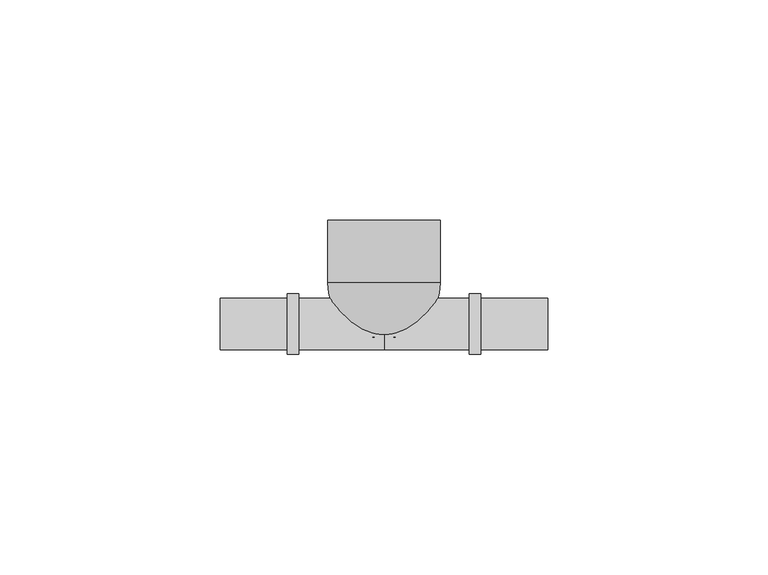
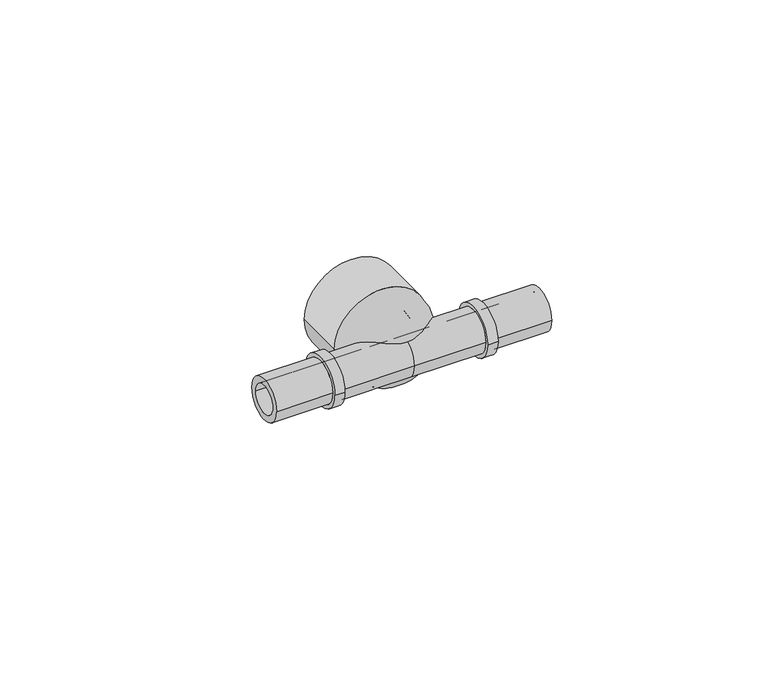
"""IFC4 building model written with IfcOpenShell, lengths in millimetres: pipe fitting geometry, FASTLOC_T-piece internal thread LX : FSL T thread LX PL."""

from ifc_helpers import new_model, si_unit, point, frame, origin, place, context, project, spatial, polyline, circle_curve, ellipse_curve, trimmed, source, transform, mapped, element, save
from ifc_brep_helpers import plane_surface, cylinder_surface, revolved_surface, advanced_brep


def pipe_fitting_1bd85c2e(model_context):
    return source(origin(), model_context, "Body", "AdvancedBrep", [
        advanced_brep(
        [(0.5, -3.3401923, 0.0), (-0.5, -3.3401923, 0.0), (-12.75, 9.4, 0.0), (12.75, 9.4, 0.0), (0.5, 1.9166852, 0.0), (-0.5, 1.9166852, 0.0), (7.5, 9.4, 0.0), (-7.5, 9.4, 0.0), (7.5, 23.5, 0.0), (-7.5, 23.5, 0.0), (-12.75, 23.5, 0.0), (12.75, 23.5, 0.0)],
        [
            (0, 1, circle_curve(frame((0.0, -3.3401923, 0.0), z_axis=(0.0, 1.0, 0.0), x_axis=(-1.0, 0.0, 0.0)), 0.5)),
            (1, 2, circle_curve(frame((0.0, 9.4, 0.0), z_axis=(0.0, 0.0, -1.0), x_axis=(0.0, 1.0, 0.0)), 12.75)),
            (2, 3, circle_curve(frame((0.0, 9.4, 0.0), z_axis=(0.0, -1.0, 0.0), x_axis=(-1.0, 0.0, 0.0)), 12.75)),
            (3, 0, circle_curve(frame((0.0, 9.4, 0.0), z_axis=(0.0, 0.0, -1.0), x_axis=(0.0, 1.0, 0.0)), 12.75)),
            (4, 5, circle_curve(frame((0.0, 1.9166852, 0.0), z_axis=(0.0, 1.0, 0.0), x_axis=(-1.0, 0.0, 0.0)), 0.5)),
            (5, 1),
            (0, 4),
            (6, 7, circle_curve(frame((0.0, 9.4, 0.0), z_axis=(0.0, 1.0, 0.0), x_axis=(-1.0, 0.0, 0.0)), 7.5)),
            (7, 5, circle_curve(frame((0.0, 9.4, 0.0), z_axis=(0.0, 0.0, 1.0), x_axis=(0.0, 1.0, 0.0)), 7.5)),
            (4, 6, circle_curve(frame((0.0, 9.4, 0.0), z_axis=(0.0, 0.0, 1.0), x_axis=(0.0, 1.0, 0.0)), 7.5)),
            (8, 9, circle_curve(frame((0.0, 23.5, 0.0), z_axis=(0.0, 1.0, 0.0), x_axis=(-1.0, 0.0, 0.0)), 7.5)),
            (9, 7),
            (6, 8),
            (2, 10),
            (10, 11, circle_curve(frame((0.0, 23.5, 0.0), z_axis=(0.0, -1.0, 0.0), x_axis=(-1.0, 0.0, 0.0)), 12.75)),
            (11, 3),
            (1, 0, circle_curve(frame((0.0, -3.3401923, 0.0), z_axis=(0.0, 1.0, 0.0), x_axis=(1.0, 0.0, 0.0)), 0.5)),
            (3, 2, circle_curve(frame((0.0, 9.4, 0.0), z_axis=(0.0, -1.0, 0.0), x_axis=(1.0, 0.0, 0.0)), 12.75)),
            (5, 4, circle_curve(frame((0.0, 1.9166852, 0.0), z_axis=(0.0, 1.0, 0.0), x_axis=(1.0, 0.0, 0.0)), 0.5)),
            (7, 6, circle_curve(frame((0.0, 9.4, 0.0), z_axis=(0.0, 1.0, 0.0), x_axis=(1.0, 0.0, 0.0)), 7.5)),
            (9, 8, circle_curve(frame((0.0, 23.5, 0.0), z_axis=(0.0, 1.0, 0.0), x_axis=(1.0, 0.0, 0.0)), 7.5)),
            (10, 11, circle_curve(frame((0.0, 23.5, 0.0), z_axis=(0.0, 1.0, 0.0), x_axis=(1.0, 0.0, 0.0)), 12.75)),
        ],
        [
            revolved_surface(trimmed(ellipse_curve(frame((0.0, 9.4, 0.0), z_axis=(0.0, 0.0, 1.0), x_axis=(0.0, 1.0, 0.0)), 12.75, 12.75), [point((-12.75, 9.4, 0.0))], [point((-0.5, -3.3401923, 0.0))], True, "CARTESIAN"), (0.0, 0.0, 0.0), (0.0, -1.0, 0.0)),
            revolved_surface(polyline([(-0.5, -3.3401923, 0.0), (-0.5, 1.9166852, 0.0)]), (0.0, 0.0, 0.0), (0.0, -1.0, 0.0)),
            revolved_surface(trimmed(ellipse_curve(frame((0.0, 9.4, 0.0), z_axis=(0.0, 0.0, -1.0), x_axis=(0.0, 1.0, 0.0)), 7.5, 7.5), [point((-0.5, 1.9166852, 0.0))], [point((-7.5, 9.4, 0.0))], True, "CARTESIAN"), (0.0, 0.0, 0.0), (0.0, -1.0, 0.0)),
            revolved_surface(polyline([(-7.5, 9.4, 0.0), (-7.5, 23.5, 0.0)]), (0.0, 0.0, 0.0), (0.0, -1.0, 0.0)),
            cylinder_surface(frame((0.0, 0.0, 0.0), z_axis=(0.0, -1.0, 0.0), x_axis=(-1.0, 0.0, 0.0)), 12.75),
            revolved_surface(trimmed(ellipse_curve(frame((0.0, 9.4, 0.0), z_axis=(0.0, 0.0, -1.0), x_axis=(0.0, 1.0, 0.0)), 12.75, 12.75), [point((12.75, 9.4, 0.0))], [point((0.5, -3.3401923, 0.0))], True, "CARTESIAN"), (0.0, 0.0, 0.0), (0.0, -1.0, 0.0)),
            revolved_surface(polyline([(0.5, -3.3401923, 0.0), (0.5, 1.9166852, 0.0)]), (0.0, 0.0, 0.0), (0.0, -1.0, 0.0)),
            revolved_surface(trimmed(ellipse_curve(frame((0.0, 9.4, 0.0), z_axis=(0.0, 0.0, 1.0), x_axis=(0.0, 1.0, 0.0)), 7.5, 7.5), [point((0.5, 1.9166852, 0.0))], [point((7.5, 9.4, 0.0))], True, "CARTESIAN"), (0.0, 0.0, 0.0), (0.0, -1.0, 0.0)),
            revolved_surface(polyline([(7.5, 9.4, 0.0), (7.5, 23.5, 0.0)]), (0.0, 0.0, 0.0), (0.0, -1.0, 0.0)),
            plane_surface(frame((0.0, 23.5, 0.0), z_axis=(0.0, 1.0, 0.0), x_axis=(1.0, 0.0, 0.0))),
            cylinder_surface(frame((0.0, 0.0, 0.0), z_axis=(0.0, -1.0, 0.0), x_axis=(1.0, 0.0, 0.0)), 12.75),
        ],
        [
            (0, [[1, 2, 3, 4]]),
            (1, [[5, 6, -1, 7]]),
            (2, [[8, 9, -5, 10]]),
            (3, [[11, 12, -8, 13]]),
            (4, [[-3, 14, 15, 16]]),
            (5, [[17, -4, 18, -2]]),
            (6, [[19, -7, -17, -6]]),
            (7, [[20, -10, -19, -9]]),
            (8, [[21, -13, -20, -12]]),
            (9, [[22, -15], [-21, -11]]),
            (10, [[-18, -16, -22, -14]]),
        ],
    ),
        advanced_brep(
        [(22.0, 6.9, 0.0), (22.0, -6.9, 0.0), (19.3, -6.9, 0.0), (19.3, 6.9, 0.0), (37.1, 5.8, 0.0), (37.1, -5.8, 0.0), (22.0, -5.8, 0.0), (22.0, 5.8, 0.0), (-37.1, 3.95, 0.0), (-37.1, -3.95, 0.0), (37.1, -3.95, 0.0), (37.1, 3.95, 0.0), (-22.0, 5.8, 0.0), (-22.0, -5.8, 0.0), (-37.1, -5.8, 0.0), (-37.1, 5.8, 0.0), (-19.3, 6.9, 0.0), (-19.3, -6.9, 0.0), (-22.0, -6.9, 0.0), (-22.0, 6.9, 0.0), (0.0, 5.8, 0.0), (0.0, -5.8, 0.0), (-19.3, -5.8, 0.0), (-19.3, 5.8, 0.0), (19.3, 5.8, 0.0), (19.3, -5.8, 0.0)],
        [
            (0, 1, circle_curve(frame((22.0, 0.0, 0.0), z_axis=(-1.0, 0.0, 0.0), x_axis=(0.0, -1.0, 0.0)), 6.9)),
            (1, 2),
            (2, 3, circle_curve(frame((19.3, 0.0, 0.0), z_axis=(1.0, 0.0, 0.0), x_axis=(0.0, -1.0, 0.0)), 6.9)),
            (3, 0),
            (4, 5, circle_curve(frame((37.1, 0.0, 0.0), z_axis=(-1.0, 0.0, 0.0), x_axis=(0.0, -1.0, 0.0)), 5.8)),
            (5, 6),
            (6, 7, circle_curve(frame((22.0, 0.0, 0.0), z_axis=(1.0, 0.0, 0.0), x_axis=(0.0, -1.0, 0.0)), 5.8)),
            (7, 4),
            (8, 9, circle_curve(frame((-37.1, 0.0, 0.0), z_axis=(-1.0, 0.0, 0.0), x_axis=(0.0, -1.0, 0.0)), 3.95)),
            (9, 10),
            (10, 11, circle_curve(frame((37.1, 0.0, 0.0), z_axis=(1.0, 0.0, 0.0), x_axis=(0.0, -1.0, 0.0)), 3.95)),
            (11, 8),
            (12, 13, circle_curve(frame((-22.0, 0.0, 0.0), z_axis=(-1.0, 0.0, 0.0), x_axis=(0.0, -1.0, 0.0)), 5.8)),
            (13, 14),
            (14, 15, circle_curve(frame((-37.1, 0.0, 0.0), z_axis=(1.0, 0.0, 0.0), x_axis=(0.0, -1.0, 0.0)), 5.8)),
            (15, 12),
            (16, 17, circle_curve(frame((-19.3, 0.0, 0.0), z_axis=(-1.0, 0.0, 0.0), x_axis=(0.0, -1.0, 0.0)), 6.9)),
            (17, 18),
            (18, 19, circle_curve(frame((-22.0, 0.0, 0.0), z_axis=(1.0, 0.0, 0.0), x_axis=(0.0, -1.0, 0.0)), 6.9)),
            (19, 16),
            (20, 21, circle_curve(frame((0.0, 0.0, 0.0), z_axis=(-1.0, 0.0, 0.0), x_axis=(0.0, -1.0, 0.0)), 5.8)),
            (21, 22),
            (22, 23, circle_curve(frame((-19.3, 0.0, 0.0), z_axis=(1.0, 0.0, 0.0), x_axis=(0.0, -1.0, 0.0)), 5.8)),
            (23, 20),
            (24, 25, circle_curve(frame((19.3, 0.0, 0.0), z_axis=(-1.0, 0.0, 0.0), x_axis=(0.0, -1.0, 0.0)), 5.8)),
            (25, 21),
            (20, 24),
            (1, 0, circle_curve(frame((22.0, 0.0, 0.0), z_axis=(-1.0, 0.0, 0.0), x_axis=(0.0, 1.0, 0.0)), 6.9)),
            (3, 2, circle_curve(frame((19.3, 0.0, 0.0), z_axis=(1.0, 0.0, 0.0), x_axis=(0.0, 1.0, 0.0)), 6.9)),
            (6, 7, circle_curve(frame((22.0, 0.0, 0.0), z_axis=(-1.0, 0.0, 0.0), x_axis=(0.0, 1.0, 0.0)), 5.8)),
            (5, 4, circle_curve(frame((37.1, 0.0, 0.0), z_axis=(-1.0, 0.0, 0.0), x_axis=(0.0, 1.0, 0.0)), 5.8)),
            (10, 11, circle_curve(frame((37.1, 0.0, 0.0), z_axis=(-1.0, 0.0, 0.0), x_axis=(0.0, 1.0, 0.0)), 3.95)),
            (9, 8, circle_curve(frame((-37.1, 0.0, 0.0), z_axis=(-1.0, 0.0, 0.0), x_axis=(0.0, 1.0, 0.0)), 3.95)),
            (14, 15, circle_curve(frame((-37.1, 0.0, 0.0), z_axis=(-1.0, 0.0, 0.0), x_axis=(0.0, 1.0, 0.0)), 5.8)),
            (13, 12, circle_curve(frame((-22.0, 0.0, 0.0), z_axis=(-1.0, 0.0, 0.0), x_axis=(0.0, 1.0, 0.0)), 5.8)),
            (18, 19, circle_curve(frame((-22.0, 0.0, 0.0), z_axis=(-1.0, 0.0, 0.0), x_axis=(0.0, 1.0, 0.0)), 6.9)),
            (17, 16, circle_curve(frame((-19.3, 0.0, 0.0), z_axis=(-1.0, 0.0, 0.0), x_axis=(0.0, 1.0, 0.0)), 6.9)),
            (22, 23, circle_curve(frame((-19.3, 0.0, 0.0), z_axis=(-1.0, 0.0, 0.0), x_axis=(0.0, 1.0, 0.0)), 5.8)),
            (21, 20, circle_curve(frame((0.0, 0.0, 0.0), z_axis=(-1.0, 0.0, 0.0), x_axis=(0.0, 1.0, 0.0)), 5.8)),
            (25, 24, circle_curve(frame((19.3, 0.0, 0.0), z_axis=(-1.0, 0.0, 0.0), x_axis=(0.0, 1.0, 0.0)), 5.8)),
        ],
        [
            cylinder_surface(frame((0.0, 0.0, 0.0), z_axis=(1.0, 0.0, 0.0), x_axis=(0.0, -1.0, 0.0)), 6.9),
            cylinder_surface(frame((0.0, 0.0, 0.0), z_axis=(1.0, 0.0, 0.0), x_axis=(0.0, -1.0, 0.0)), 5.8),
            revolved_surface(polyline([(37.1, -3.95, 0.0), (-37.1, -3.95, 0.0)]), (0.0, 0.0, 0.0), (1.0, 0.0, 0.0)),
            cylinder_surface(frame((0.0, 0.0, 0.0), z_axis=(1.0, 0.0, 0.0), x_axis=(0.0, 1.0, 0.0)), 6.9),
            plane_surface(frame((22.0, 0.0, 0.0), z_axis=(1.0, 0.0, 0.0), x_axis=(0.0, 1.0, 0.0))),
            cylinder_surface(frame((0.0, 0.0, 0.0), z_axis=(1.0, 0.0, 0.0), x_axis=(0.0, 1.0, 0.0)), 5.8),
            plane_surface(frame((37.1, 0.0, 0.0), z_axis=(1.0, 0.0, 0.0), x_axis=(0.0, 1.0, 0.0))),
            revolved_surface(polyline([(37.1, 3.95, 0.0), (-37.1, 3.95, 0.0)]), (0.0, 0.0, 0.0), (1.0, 0.0, 0.0)),
            plane_surface(frame((-37.1, 0.0, 0.0), z_axis=(-1.0, 0.0, 0.0), x_axis=(0.0, 1.0, 0.0))),
            plane_surface(frame((-22.0, 0.0, 0.0), z_axis=(-1.0, 0.0, 0.0), x_axis=(0.0, 1.0, 0.0))),
            plane_surface(frame((-19.3, 0.0, 0.0), z_axis=(1.0, 0.0, 0.0), x_axis=(0.0, 1.0, 0.0))),
            plane_surface(frame((19.3, 0.0, 0.0), z_axis=(-1.0, 0.0, 0.0), x_axis=(0.0, 1.0, 0.0))),
        ],
        [
            (0, [[1, 2, 3, 4]]),
            (1, [[5, 6, 7, 8]]),
            (2, [[9, 10, 11, 12]]),
            (1, [[13, 14, 15, 16]]),
            (0, [[17, 18, 19, 20]]),
            (1, [[21, 22, 23, 24]]),
            (1, [[25, 26, -21, 27]]),
            (3, [[28, -4, 29, -2]]),
            (4, [[-28, -1], [30, -7]]),
            (5, [[31, -8, -30, -6]]),
            (6, [[-31, -5], [32, -11]]),
            (7, [[33, -12, -32, -10]]),
            (8, [[34, -15], [-33, -9]]),
            (5, [[35, -16, -34, -14]]),
            (9, [[36, -19], [-35, -13]]),
            (3, [[37, -20, -36, -18]]),
            (10, [[-37, -17], [38, -23]]),
            (5, [[39, -24, -38, -22]]),
            (5, [[40, -27, -39, -26]]),
            (11, [[-29, -3], [-40, -25]]),
        ],
    ),
    ])


if __name__ == "__main__":
    model = new_model("IFC4")
    model_context = context("Model", 3, world=origin())
    ifc_project = project(units=[si_unit("LENGTHUNIT", "METRE", prefix="MILLI")], contexts=[model_context])
    site = spatial("IfcSite", under=ifc_project)
    building = spatial("IfcBuilding", under=site)
    placement = place(None, origin())
    pipe_fitting_shape = pipe_fitting_1bd85c2e(model_context)
    element("IfcPipeFitting", 1, ObjectType="FASTLOC_T-piece internal thread LX : FSL T thread LX PL", at=placement, inside=building, context=model_context, shape_type="MappedRepresentation", body=[
        mapped(pipe_fitting_shape, transform((0.0, 0.0, 0.0), x_axis=(1.0, 0.0, 0.0), y_axis=(0.0, 1.0, 0.0), z_axis=(0.0, 0.0, 1.0))),
    ])
    save(model, "model.ifc")
